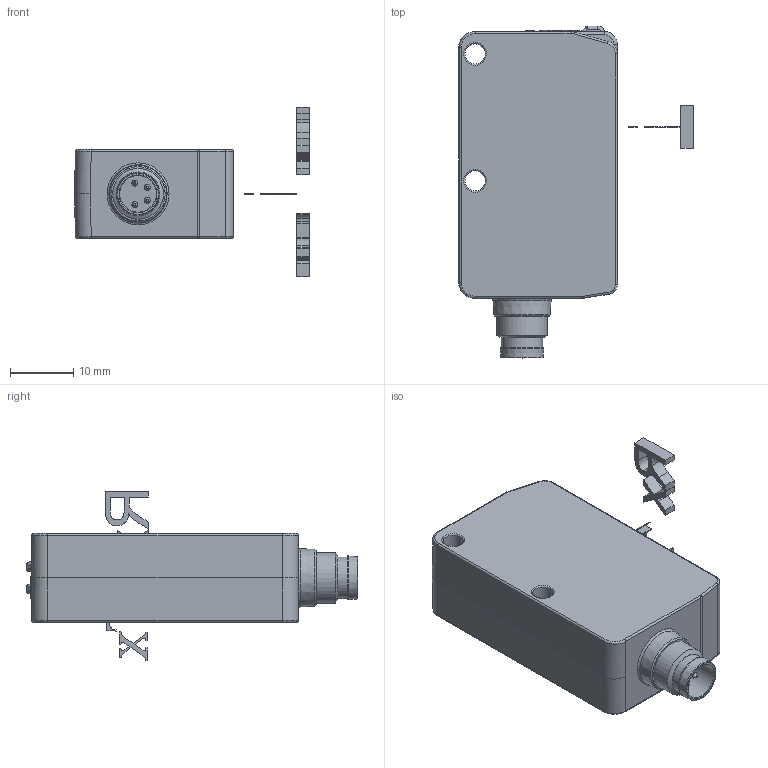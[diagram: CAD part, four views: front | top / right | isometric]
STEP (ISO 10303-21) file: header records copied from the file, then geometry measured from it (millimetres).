
FILE_DESCRIPTION(/* description */ (''),/* implementation_level */ '2;1');
FILE_NAME(/* name */ 'DSD-0142.stp',/* time_stamp */ '2020-09-22T10:14:29+02:00',/* author */ (''),/* organization */ (''),/* preprocessor_version */ 'ST-DEVELOPER v16.7',/* originating_system */ 'SIEMENS PLM Software NX 12.0',/* authorisation */ '');
FILE_SCHEMA (('AUTOMOTIVE_DESIGN { 1 0 10303 214 3 1 1 1 }'));
Length unit declared in the file: millimetre
Products named in the file (1): MBra20D017FA1t9z
Bounding box: 37 x 52.3 x 26.68 mm (x, y, z)
Volume: 14749.5 mm3; surface area: 5121.4 mm2
Topology: 7 solids, 7 shells, 457 faces, 1153 edges, 724 vertices
Faces by surface type: bspline 172, cylinder 145, plane 114, torus 11, cone 9, sphere 6
Full cylindrical faces by diameter (mm): 0.95 x4, 1.4 x2, 2.85 x2, 2.95 x2, 3.2 x2, 5.77 x1, 6.52 x1, 6.9 x1, 8 x1
Entity records: 17646 total; most frequent: CARTESIAN_POINT 4960, ORIENTED_EDGE 2168, DIRECTION 1495, EDGE_CURVE 1084, VERTEX_POINT 706, AXIS2_PLACEMENT_3D 593, EDGE_LOOP 528, PRESENTATION_STYLE_ASSIGNMENT 464
